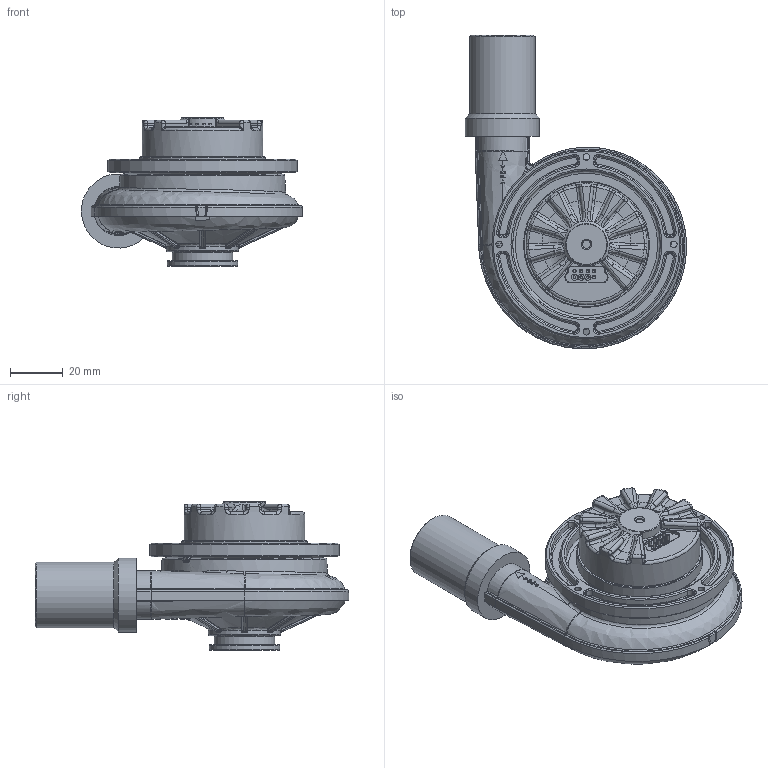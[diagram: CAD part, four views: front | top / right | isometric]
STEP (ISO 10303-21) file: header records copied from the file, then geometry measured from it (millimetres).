
FILE_DESCRIPTION(/* description */ (''),/* implementation_level */ '2;1');
FILE_NAME(/* name */ 'U85MX-024KE-52.stp',/* time_stamp */ '2024-03-28T14:40:17+01:00',/* author */ (''),/* organization */ (''),/* preprocessor_version */ 'ST-DEVELOPER v16.7',/* originating_system */ 'SIEMENS PLM Software NX 1946',/* authorisation */ '');
FILE_SCHEMA (('AUTOMOTIVE_DESIGN { 1 0 10303 214 3 1 1 1 }'));
Length unit declared in the file: millimetre
Products named in the file (1): 021406_1-U85MX-024KE-52_Simple _U85MX-024KE-53_
Bounding box: 84.18 x 119.45 x 56.5 mm (x, y, z)
Volume: 152452 mm3; surface area: 31713.1 mm2
Topology: 1 solids, 2 shells, 1202 faces, 2937 edges, 1781 vertices
Faces by surface type: plane 360, cylinder 351, bspline 342, torus 69, cone 60, sphere 14, extrusion 5, revolution 1
Full cylindrical faces by diameter (mm): 2.5 x4, 3 x1, 14.6 x1, 23 x1, 24.2 x1, 25 x1, 25.9 x1, 27 x1, 28.2 x1, 46 x1, 46.5 x1, 48 x1, 72 x1
Entity records: 47695 total; most frequent: CARTESIAN_POINT 23461, ORIENTED_EDGE 5750, DIRECTION 3815, EDGE_CURVE 2875, VERTEX_POINT 1766, AXIS2_PLACEMENT_3D 1493, B_SPLINE_CURVE_WITH_KNOTS 1377, EDGE_LOOP 1301
